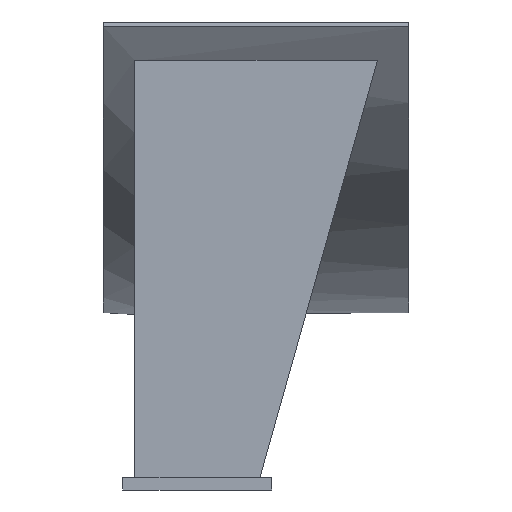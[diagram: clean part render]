
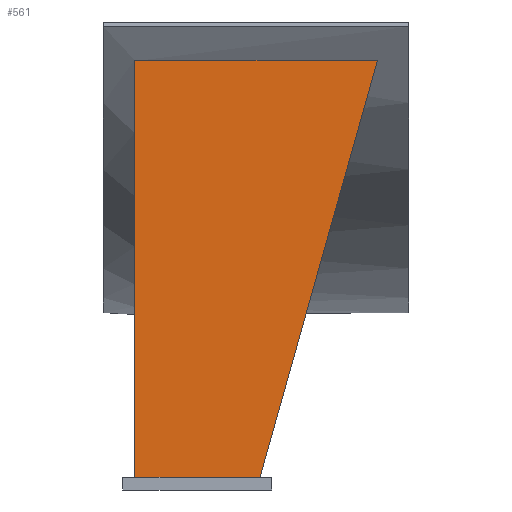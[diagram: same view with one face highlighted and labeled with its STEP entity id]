
A CAD part, front view. The second image highlights one B-rep face of the part: STEP entity #561.
In plain terms, the highlighted planar face has unit normal (0, -1, 0).
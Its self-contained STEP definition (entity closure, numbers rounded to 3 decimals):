
#50=FACE_OUTER_BOUND('',#83,.T.);
#83=EDGE_LOOP('',(#433,#434,#435,#436));
#125=LINE('',#842,#191);
#139=LINE('',#884,#205);
#142=LINE('',#890,#208);
#143=LINE('',#891,#209);
#191=VECTOR('',#677,10.);
#205=VECTOR('',#717,10.);
#208=VECTOR('',#722,10.);
#209=VECTOR('',#723,10.);
#252=VERTEX_POINT('',#839);
#253=VERTEX_POINT('',#841);
#268=VERTEX_POINT('',#883);
#270=VERTEX_POINT('',#889);
#307=EDGE_CURVE('',#252,#253,#125,.T.);
#328=EDGE_CURVE('',#252,#268,#139,.T.);
#331=EDGE_CURVE('',#270,#268,#142,.T.);
#332=EDGE_CURVE('',#253,#270,#143,.T.);
#433=ORIENTED_EDGE('',*,*,#328,.T.);
#434=ORIENTED_EDGE('',*,*,#331,.F.);
#435=ORIENTED_EDGE('',*,*,#332,.F.);
#436=ORIENTED_EDGE('',*,*,#307,.F.);
#533=PLANE('',#618);
#561=ADVANCED_FACE('',(#50),#533,.T.);
#618=AXIS2_PLACEMENT_3D('',#888,#720,#721);
#677=DIRECTION('',(-1.,0.,0.));
#717=DIRECTION('',(0.271,0.,0.963));
#720=DIRECTION('center_axis',(0.,-1.,0.));
#721=DIRECTION('ref_axis',(0.,0.,-1.));
#722=DIRECTION('',(1.,0.,0.));
#723=DIRECTION('',(0.,0.,1.));
#839=CARTESIAN_POINT('',(80.,-617.,16.));
#841=CARTESIAN_POINT('',(-80.,-617.,16.));
#842=CARTESIAN_POINT('',(-40.,-617.,16.));
#883=CARTESIAN_POINT('',(230.,-617.,548.688));
#884=CARTESIAN_POINT('',(143.613,-617.,241.904));
#888=CARTESIAN_POINT('Origin',(-80.,-617.,548.688));
#889=CARTESIAN_POINT('',(-80.,-617.,548.688));
#890=CARTESIAN_POINT('',(-80.,-617.,548.688));
#891=CARTESIAN_POINT('',(-80.,-617.,16.));
